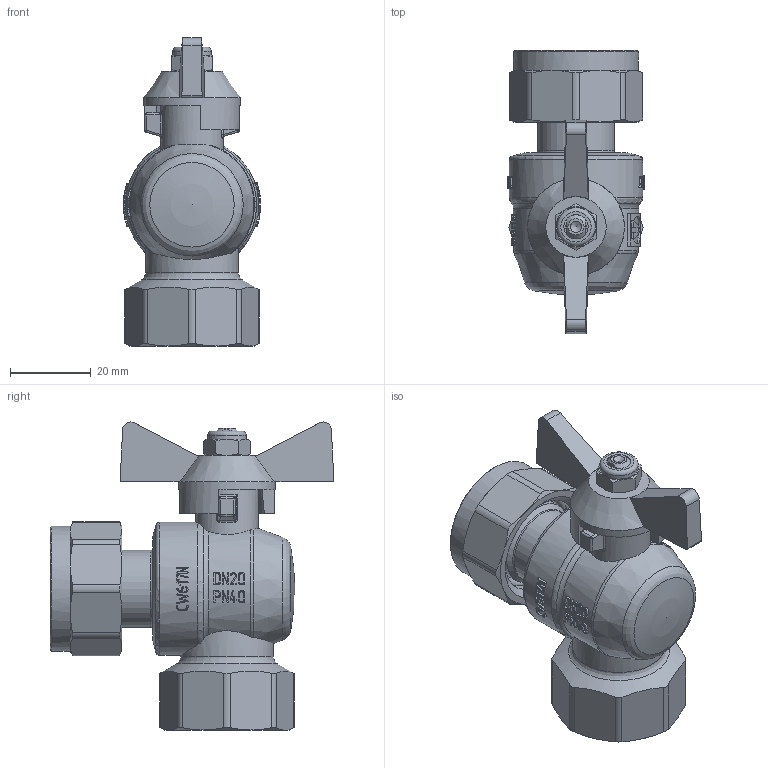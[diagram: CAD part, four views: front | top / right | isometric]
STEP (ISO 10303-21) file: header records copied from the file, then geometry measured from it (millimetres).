
FILE_DESCRIPTION(('STEP AP203'), '1');
FILE_NAME('VT.266.N.0505', '', ('UNSPECIFIED'), ('UNSPECIFIED'), 'C3D Converter', 'C3D Toolkit', '');
FILE_SCHEMA(('CONFIG_CONTROL_DESIGN'));
Length unit declared in the file: millimetre
Products named in the file (1): ВР.491816.031.000 СБ
Bounding box: 34 x 70.3 x 76.33 mm (x, y, z)
Volume: 52801.3 mm3; surface area: 17813.1 mm2
Topology: 2 solids, 6 shells, 810 faces, 2167 edges, 1401 vertices
Faces by surface type: plane 313, extrusion 294, cylinder 100, cone 59, torus 20, bspline 19, sphere 5
Full cylindrical faces by diameter (mm): 6 x1, 9.5 x1, 10.5 x1, 12 x1, 15.5 x1, 19 x1, 21.4 x1, 23 x1, 24 x2, 24.118 x2, 24.2 x1, 24.3 x1, 26.7 x1, 31 x1, 33 x1
Entity records: 36314 total; most frequent: CARTESIAN_POINT 18346, ORIENTED_EDGE 4206, DIRECTION 2704, EDGE_CURVE 2103, VERTEX_POINT 1395, B_SPLINE_CURVE_WITH_KNOTS 1107, VECTOR 1090, EDGE_LOOP 896
